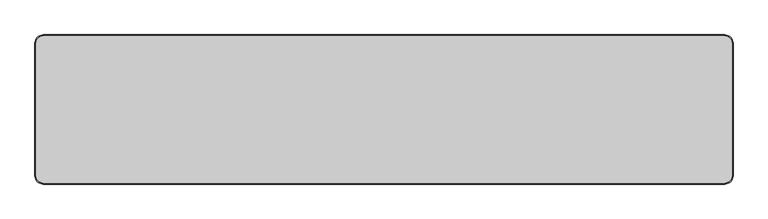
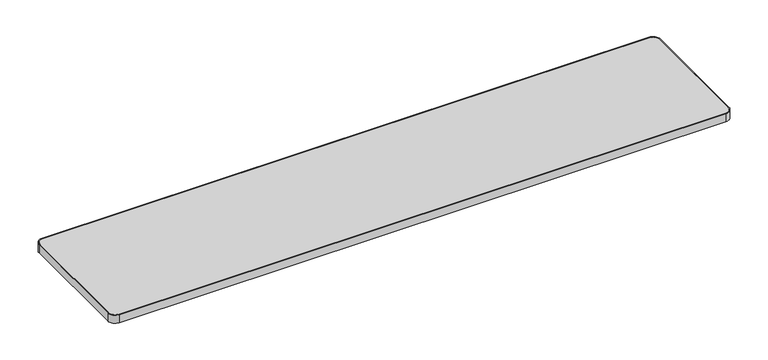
"""IFC4 building model written with IfcOpenShell, lengths in millimetres: furniture geometry, Steelcase - Groupwork - Table - Top - Rectangular : 18D x 84W - HPL."""

from ifc_helpers import new_model, si_unit, point, frame, frame_2d, origin, place, context, project, spatial, polyline, circle_curve, trimmed, segment, composite_curve, outline, extrude, source, transform, mapped, element, save


def furniture_eebffce9(model_context):
    return source(origin(), model_context, "Body", "SweptSolid", [
        extrude(outline(composite_curve([segment(polyline([(-1069.34, 225.6), (1012.54, 225.6)]), True, "CONTINUOUS"), segment(trimmed(circle_curve(frame_2d((1012.54, 202.74)), 22.86), [point((1012.54, 225.6))], [point((1035.4, 202.74))], False, "CARTESIAN"), True, "CONTINUOUS"), segment(polyline([(1035.4, 202.74), (1035.4, -202.74)]), True, "CONTINUOUS"), segment(trimmed(circle_curve(frame_2d((1012.54, -202.74)), 22.86), [point((1035.4, -202.74))], [point((1012.54, -225.6))], False, "CARTESIAN"), True, "CONTINUOUS"), segment(polyline([(1012.54, -225.6), (-1069.34, -225.6)]), True, "CONTINUOUS"), segment(trimmed(circle_curve(frame_2d((-1069.34, -202.74)), 22.86), [point((-1069.34, -225.6))], [point((-1092.2, -202.74))], False, "CARTESIAN"), True, "CONTINUOUS"), segment(polyline([(-1092.2, -202.74), (-1092.2, 202.74)]), True, "CONTINUOUS"), segment(trimmed(circle_curve(frame_2d((-1069.34, 202.74)), 22.86), [point((-1092.2, 202.74))], [point((-1069.34, 225.6))], False, "CARTESIAN"), True, "CONTINUOUS")], self_intersect=False)), frame((0.0, 0.0, 694.944), z_axis=(0.0, 0.0, 1.0), x_axis=(1.0, 0.0, 0.0)), (0.0, 0.0, 1.0), 28.956),
        extrude(outline(composite_curve([segment(trimmed(circle_curve(frame_2d((1012.9385373, 203.1385373)), 25.4614627), [point((1012.9385373, 228.6))], [point((1038.4, 203.1385373))], False, "CARTESIAN"), True, "CONTINUOUS"), segment(polyline([(1038.4, 203.1385373), (1038.4, -203.2211297)]), True, "CONTINUOUS"), segment(trimmed(circle_curve(frame_2d((1013.0211297, -203.2211297)), 25.3788703), [point((1038.4, -203.2211297))], [point((1013.0211297, -228.6))], False, "CARTESIAN"), True, "CONTINUOUS"), segment(polyline([(1013.0211297, -228.6), (-1069.8, -228.6)]), True, "CONTINUOUS"), segment(trimmed(circle_curve(frame_2d((-1069.8, -203.2)), 25.4), [point((-1069.8, -228.6))], [point((-1095.2, -203.2))], False, "CARTESIAN"), True, "CONTINUOUS"), segment(polyline([(-1095.2, -203.2), (-1095.2, 203.2)]), True, "CONTINUOUS"), segment(trimmed(circle_curve(frame_2d((-1069.8, 203.2)), 25.4), [point((-1095.2, 203.2))], [point((-1069.8, 228.6))], False, "CARTESIAN"), True, "CONTINUOUS"), segment(polyline([(-1069.8, 228.6), (1012.9385373, 228.6)]), True, "CONTINUOUS")], self_intersect=False), holes=[composite_curve([segment(polyline([(1012.6064662, 225.6), (-1069.34, 225.6)]), True, "CONTINUOUS"), segment(trimmed(circle_curve(frame_2d((-1069.34, 202.74)), 22.86), [point((-1069.34, 225.6))], [point((-1092.2, 202.74))], True, "CARTESIAN"), True, "CONTINUOUS"), segment(polyline([(-1092.2, 202.74), (-1092.2, -202.74)]), True, "CONTINUOUS"), segment(trimmed(circle_curve(frame_2d((-1069.34, -202.74)), 22.86), [point((-1092.2, -202.74))], [point((-1069.34, -225.6))], True, "CARTESIAN"), True, "CONTINUOUS"), segment(polyline([(-1069.34, -225.6), (1012.373488, -225.6)]), True, "CONTINUOUS"), segment(trimmed(circle_curve(frame_2d((1012.373488, -202.573488)), 23.026512), [point((1012.373488, -225.6))], [point((1035.4, -202.573488))], True, "CARTESIAN"), True, "CONTINUOUS"), segment(polyline([(1035.4, -202.573488), (1035.4, 202.8064662)]), True, "CONTINUOUS"), segment(trimmed(circle_curve(frame_2d((1012.6064662, 202.8064662)), 22.7935338), [point((1035.4, 202.8064662))], [point((1012.6064662, 225.6))], True, "CARTESIAN"), True, "CONTINUOUS")], self_intersect=False)]), frame((0.0, 0.0, 694.944), z_axis=(0.0, 0.0, 1.0), x_axis=(1.0, 0.0, 0.0)), (0.0, 0.0, 1.0), 28.956),
    ])


if __name__ == "__main__":
    model = new_model("IFC4")
    model_context = context("Model", 3, world=origin())
    ifc_project = project(units=[si_unit("LENGTHUNIT", "METRE", prefix="MILLI")], contexts=[model_context])
    site = spatial("IfcSite", under=ifc_project)
    building = spatial("IfcBuilding", under=site)
    placement = place(None, origin())
    furniture_shape = furniture_eebffce9(model_context)
    element("IfcFurniture", 1, ObjectType="Steelcase - Groupwork - Table - Top - Rectangular : 18D x 84W - HPL", at=placement, inside=building, context=model_context, shape_type="MappedRepresentation", body=[
        mapped(furniture_shape, transform((0.0, 0.0, 0.0), x_axis=(1.0, 0.0, 0.0), y_axis=(0.0, 1.0, 0.0), z_axis=(0.0, 0.0, 1.0))),
    ])
    save(model, "model.ifc")
